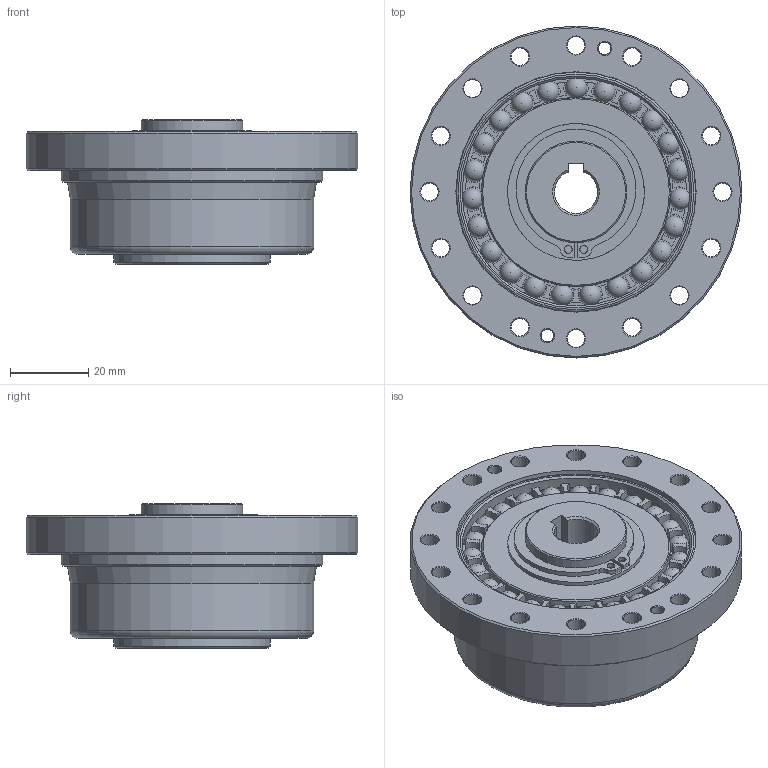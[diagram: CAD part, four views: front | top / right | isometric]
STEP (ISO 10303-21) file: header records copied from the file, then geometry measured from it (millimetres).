
FILE_DESCRIPTION(/* description */ (''),/* implementation_level */ '2;1');
FILE_NAME(/* name */ 'S:\TB00F\研發課二組\機密級\1.\X2\8A2D8A08\X0\\01-DT\DT-圖面\2.組合圖\\X2\6A21578B\X0\\DGC-CO\DGC-25-XXX-CO模型\DGC-25-XX-CO.stp',/* time_stamp */ '2024-09-25T17:19:01+08:00',/* author */ ('ted40524246.cheng'),/* organization */ (''),/* preprocessor_version */ 'ST-DEVELOPER v15.2',/* originating_system */ 'Autodesk Inventor 2014',/* authorisation */ '');
FILE_SCHEMA (('AUTOMOTIVE_DESIGN { 1 0 10303 214 3 1 1 }'));
Length unit declared in the file: centimetre
Products named in the file (1): DGC-25-XX-CO
Bounding box: 85 x 85 x 37 mm (x, y, z)
Volume: 69774.3 mm3; surface area: 34217.5 mm2
Topology: 1 solids, 1 shells, 357 faces, 894 edges, 551 vertices
Faces by surface type: cylinder 145, plane 70, cone 70, torus 49, sphere 23
Full cylindrical faces by diameter (mm): 2 x2, 3.242 x4, 4.5 x16, 6.6 x8, 20 x1, 24.9 x1, 26 x2, 26.1 x1, 35 x1, 40 x1, 43 x1, 48.385 x1, 58.32 x1, 61.34 x2, 62.34 x1, 67 x1, 85 x1
Entity records: 9760 total; most frequent: DIRECTION 1932, CARTESIAN_POINT 1506, ORIENTED_EDGE 1436, AXIS2_PLACEMENT_3D 906, EDGE_CURVE 672, EDGE_LOOP 568, CIRCLE 548, VERTEX_POINT 468
